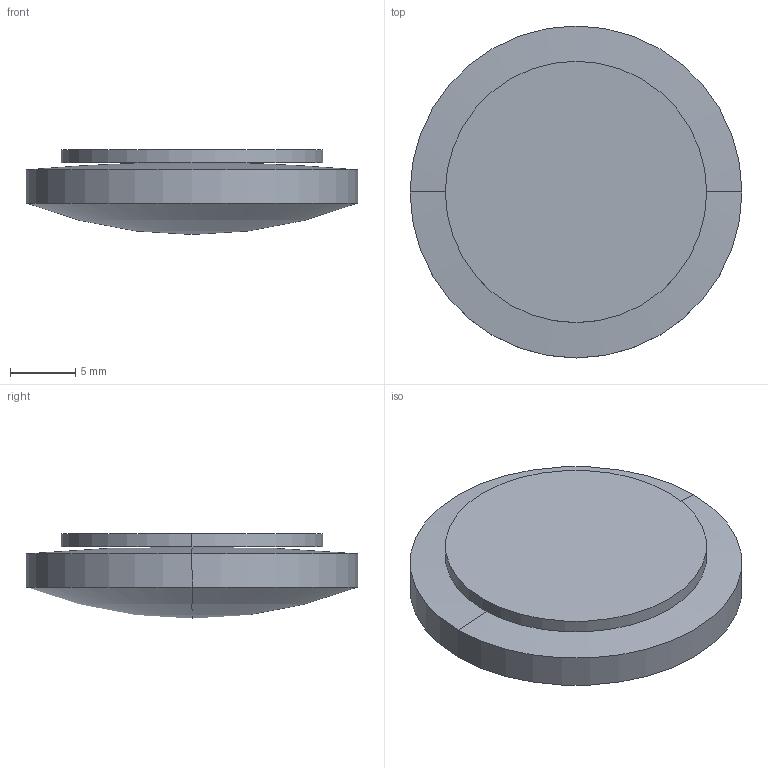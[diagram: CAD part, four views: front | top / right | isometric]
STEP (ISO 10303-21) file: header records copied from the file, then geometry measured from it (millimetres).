
FILE_DESCRIPTION(('STEP AP214'),'1');
FILE_NAME('LLQ-25-63.STEP','2020-03-09T17:41:45',(' '),(' '),'Spatial InterOp 3D',' ',' ');
FILE_SCHEMA(('AUTOMOTIVE_DESIGN { 1 0 10303 214 1 1 1 1 }'));
Length unit declared in the file: millimetre
Products named in the file (1): 1
Bounding box: 25.4 x 25.4 x 6.5 mm (x, y, z)
Volume: 2359.2 mm3; surface area: 1926.6 mm2
Topology: 2 solids, 2 shells, 10 faces, 20 edges, 10 vertices
Faces by surface type: sphere 4, cylinder 4, plane 2
Entity records: 255 total; most frequent: DIRECTION 52, CARTESIAN_POINT 38, ORIENTED_EDGE 32, AXIS2_PLACEMENT_3D 24, EDGE_CURVE 16, CIRCLE 12, ADVANCED_FACE 10, FACE_OUTER_BOUND 10
